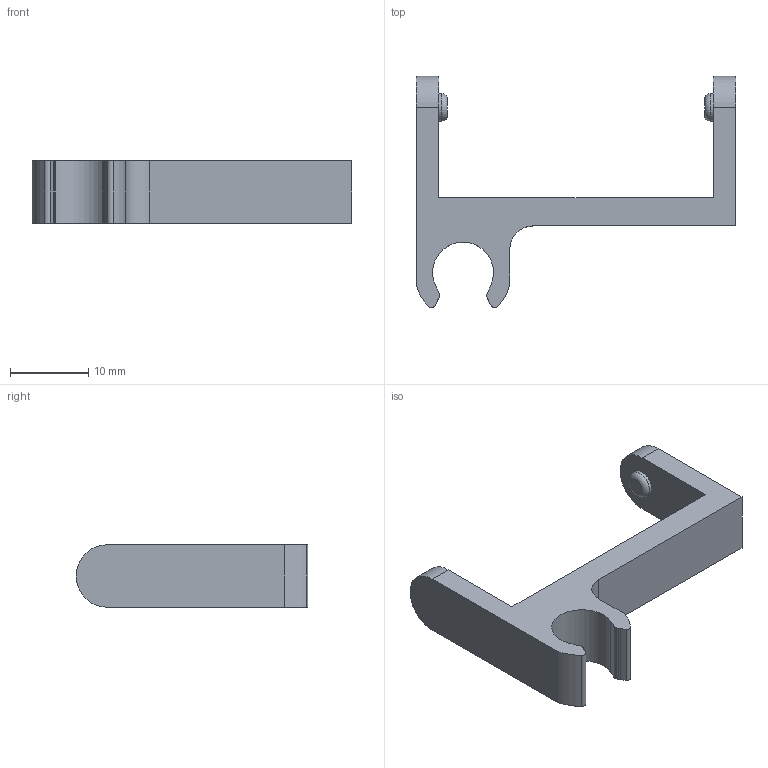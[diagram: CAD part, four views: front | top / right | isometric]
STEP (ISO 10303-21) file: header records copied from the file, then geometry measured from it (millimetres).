
FILE_DESCRIPTION(/* description */ (''),/* implementation_level */ '2;1');
FILE_NAME(/* name */ 'C:\Users\Dayton\Box Sync\BRICOLAGE\IMPRIMANTE 3D\PIECES\PIECE DISCOVERY\CUSTOM\BOITE AFFICHEUR OLED\V2\STP\brasV2.stp',/* time_stamp */ '2016-04-07T19:26:55+02:00',/* author */ ('Dayton'),/* organization */ (''),/* preprocessor_version */ 'ST-DEVELOPER v15.6',/* originating_system */ 'Autodesk Inventor 2015',/* authorisation */ '');
FILE_SCHEMA (('AUTOMOTIVE_DESIGN { 1 0 10303 214 3 1 1 }'));
Length unit declared in the file: millimetre
Products named in the file (1): brasV2
Bounding box: 40.9 x 29.65 x 8 mm (x, y, z)
Volume: 2431.9 mm3; surface area: 2045.1 mm2
Topology: 1 solids, 1 shells, 35 faces, 93 edges, 62 vertices
Faces by surface type: plane 17, cylinder 16, torus 2
Full cylindrical faces by diameter (mm): 3.5 x2
Entity records: 1087 total; most frequent: DIRECTION 193, CARTESIAN_POINT 183, ORIENTED_EDGE 174, EDGE_CURVE 87, AXIS2_PLACEMENT_3D 70, VERTEX_POINT 60, LINE 53, VECTOR 53
